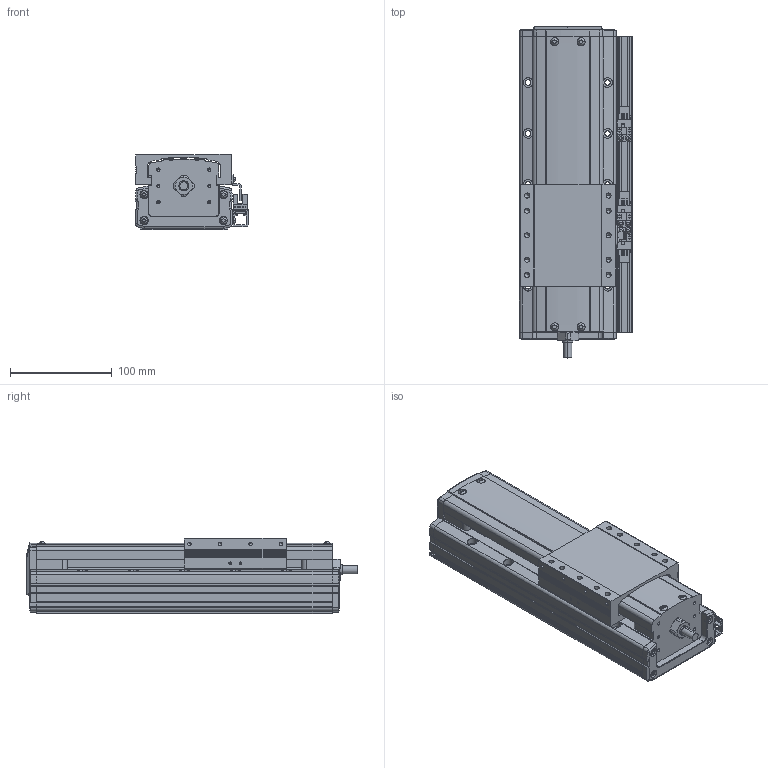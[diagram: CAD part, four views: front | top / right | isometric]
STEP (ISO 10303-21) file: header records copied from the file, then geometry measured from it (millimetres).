
FILE_DESCRIPTION(('STEP AP214'),'1');
FILE_NAME('Z:/Web/3D/PSA95/STP/PSA95-100 (3D)/PSA95ㅁㅁ-100S+3SR.stp','2014-07-02T23:28:15',(' '),(' '),'Spatial InterOp 3D',' ',' ');
FILE_SCHEMA(('automotive_design'));
Length unit declared in the file: millimetre
Products named in the file (36): BASE; RRCV; 스크루 : Round - M4.0 x 10.0; 너트 : Square - M10.0 x 220.7419; RR1500; FRCV-090; 스크루 : Round - M4.0 x 6.0; SLBL-PA90; EE-SX674; SBK-SX674-352; 스크루 : Round - M3.0 x 6.0; M3.0 x 6.0; SRL-16x17-380L; SGD-PA95; 스크루 : Round - M3.0 x 8.0
Bounding box: 111 x 326 x 74 mm (x, y, z)
Volume: 1743072.2 mm3; surface area: 253011.9 mm2
Topology: 36 solids, 36 shells, 2196 faces, 5878 edges, 3798 vertices
Faces by surface type: plane 1352, cylinder 583, cone 173, sphere 50, bspline 24, torus 14
Entity records: 88477 total; most frequent: CARTESIAN_POINT 14795, DIRECTION 11594, ORIENTED_EDGE 11572, EDGE_CURVE 5786, LINE 4092, VECTOR 4092, VERTEX_POINT 3798, AXIS2_PLACEMENT_3D 3751
